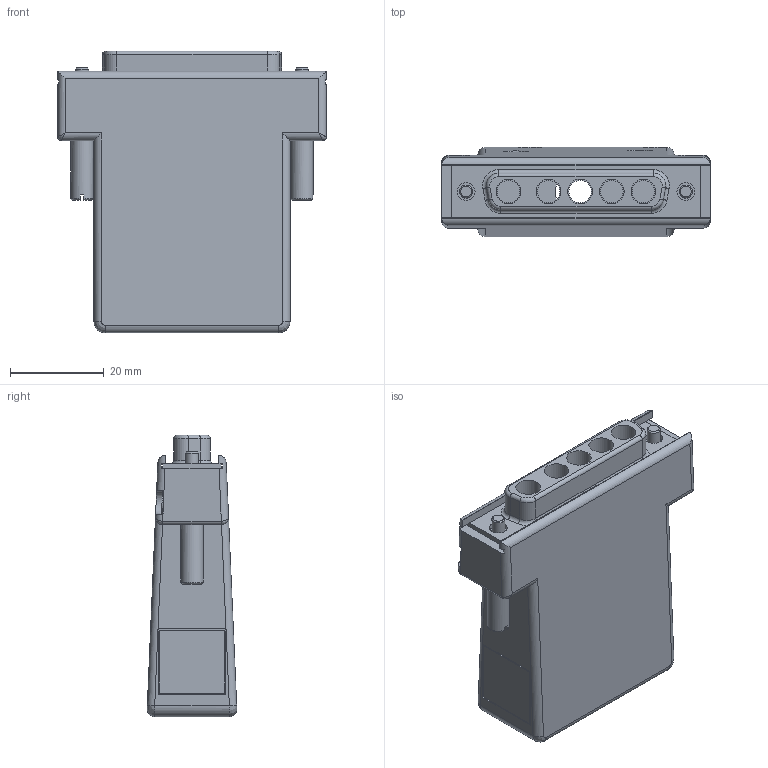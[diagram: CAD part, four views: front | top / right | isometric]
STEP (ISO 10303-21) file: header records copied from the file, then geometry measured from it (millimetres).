
FILE_DESCRIPTION(/* description */ ('Alibre Inc.'),/* implementation_level */ '2;1');
FILE_NAME(/* name */ 'export-54F5EEC0-4FF9-4189-8EA6-F6F3E3880376',/* time_stamp */ '2025-06-19T09:52:31-07:00',/* author */ (''),/* organization */ (''),/* preprocessor_version */ 'ST-DEVELOPER v17',/* originating_system */ 'Alibre',/* authorisation */ '');
FILE_SCHEMA (('CONFIG_CONTROL_DESIGN'));
Length unit declared in the file: inch
Bounding box: 57.4 x 19.16 x 60.2 mm (x, y, z)
Volume: 18917.3 mm3; surface area: 16592.1 mm2
Topology: 1 solids, 1 shells, 261 faces, 666 edges, 428 vertices
Faces by surface type: plane 172, cylinder 61, torus 18, bspline 8, cone 2
Full cylindrical faces by diameter (mm): 2.794 x2, 3.81 x2, 4.775 x2, 4.801 x5, 4.826 x6, 5.08 x2, 5.283 x5, 5.334 x2, 8.89 x1
Entity records: 8164 total; most frequent: CARTESIAN_POINT 2129, ORIENTED_EDGE 1238, DIRECTION 1063, EDGE_CURVE 619, VERTEX_POINT 416, VECTOR 414, LINE 414, AXIS2_PLACEMENT_3D 413
